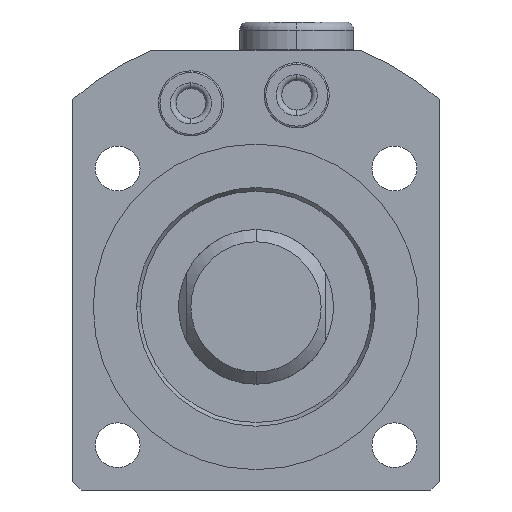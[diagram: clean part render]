
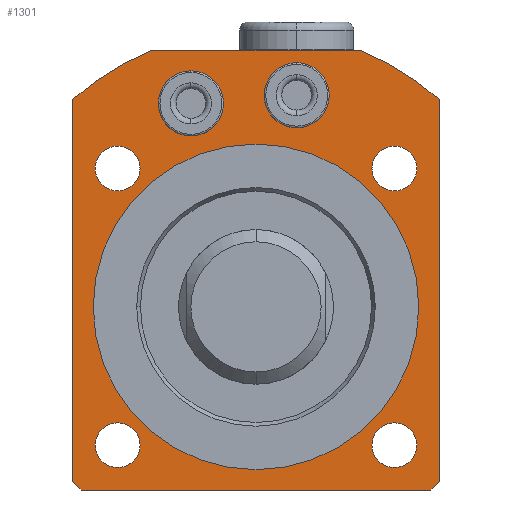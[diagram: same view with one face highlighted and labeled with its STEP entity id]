
A CAD part, front view. The second image highlights one B-rep face of the part: STEP entity #1301.
In plain terms, the highlighted planar face has unit normal (0, -1, 0).
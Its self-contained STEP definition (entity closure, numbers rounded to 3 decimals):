
#993=FACE_BOUND('',#1774,.T.);
#994=FACE_BOUND('',#1775,.T.);
#995=FACE_BOUND('',#1776,.T.);
#996=FACE_BOUND('',#1777,.T.);
#997=FACE_BOUND('',#1778,.T.);
#998=FACE_BOUND('',#1779,.T.);
#999=FACE_BOUND('',#1780,.T.);
#1000=FACE_BOUND('',#1781,.T.);
#1072=PLANE('',#4391);
#1301=ADVANCED_FACE('',(#993,#994,#995,#996,#997,#998,#999,#1000),#1072,
 .T.);
#1774=EDGE_LOOP('',(#2775,#2776));
#1775=EDGE_LOOP('',(#2777,#2778));
#1776=EDGE_LOOP('',(#2779,#2780));
#1777=EDGE_LOOP('',(#2781,#2782));
#1778=EDGE_LOOP('',(#2783,#2784));
#1779=EDGE_LOOP('',(#2785,#2786));
#1780=EDGE_LOOP('',(#2787,#2788));
#1781=EDGE_LOOP('',(#2789,#2790,#2791,#2792,#2793,#2794,#2795,#2796));
#2034=LINE('',#6532,#2216);
#2035=LINE('',#6536,#2217);
#2036=LINE('',#6538,#2218);
#2037=LINE('',#6540,#2219);
#2038=LINE('',#6542,#2220);
#2039=LINE('',#6544,#2221);
#2216=VECTOR('',#5256,1.);
#2217=VECTOR('',#5259,1.);
#2218=VECTOR('',#5260,1.);
#2219=VECTOR('',#5261,1.);
#2220=VECTOR('',#5262,1.);
#2221=VECTOR('',#5263,1.);
#2775=ORIENTED_EDGE('',*,*,#3758,.F.);
#2776=ORIENTED_EDGE('',*,*,#3616,.F.);
#2777=ORIENTED_EDGE('',*,*,#3759,.F.);
#2778=ORIENTED_EDGE('',*,*,#3620,.F.);
#2779=ORIENTED_EDGE('',*,*,#3640,.F.);
#2780=ORIENTED_EDGE('',*,*,#3760,.F.);
#2781=ORIENTED_EDGE('',*,*,#3648,.F.);
#2782=ORIENTED_EDGE('',*,*,#3761,.F.);
#2783=ORIENTED_EDGE('',*,*,#3656,.F.);
#2784=ORIENTED_EDGE('',*,*,#3762,.F.);
#2785=ORIENTED_EDGE('',*,*,#3664,.F.);
#2786=ORIENTED_EDGE('',*,*,#3763,.F.);
#2787=ORIENTED_EDGE('',*,*,#3692,.T.);
#2788=ORIENTED_EDGE('',*,*,#3764,.T.);
#2789=ORIENTED_EDGE('',*,*,#3765,.F.);
#2790=ORIENTED_EDGE('',*,*,#3766,.T.);
#2791=ORIENTED_EDGE('',*,*,#3767,.F.);
#2792=ORIENTED_EDGE('',*,*,#3768,.T.);
#2793=ORIENTED_EDGE('',*,*,#3769,.T.);
#2794=ORIENTED_EDGE('',*,*,#3770,.T.);
#2795=ORIENTED_EDGE('',*,*,#3771,.T.);
#2796=ORIENTED_EDGE('',*,*,#3772,.T.);
#3267=VERTEX_POINT('',#6035);
#3268=VERTEX_POINT('',#6037);
#3271=VERTEX_POINT('',#6044);
#3272=VERTEX_POINT('',#6046);
#3290=VERTEX_POINT('',#6111);
#3291=VERTEX_POINT('',#6112);
#3298=VERTEX_POINT('',#6138);
#3299=VERTEX_POINT('',#6139);
#3306=VERTEX_POINT('',#6165);
#3307=VERTEX_POINT('',#6166);
#3314=VERTEX_POINT('',#6192);
#3315=VERTEX_POINT('',#6193);
#3338=VERTEX_POINT('',#6310);
#3339=VERTEX_POINT('',#6312);
#3387=VERTEX_POINT('',#6530);
#3388=VERTEX_POINT('',#6531);
#3389=VERTEX_POINT('',#6533);
#3390=VERTEX_POINT('',#6535);
#3391=VERTEX_POINT('',#6537);
#3392=VERTEX_POINT('',#6539);
#3393=VERTEX_POINT('',#6541);
#3394=VERTEX_POINT('',#6543);
#3616=EDGE_CURVE('',#3267,#3268,#3976,.T.);
#3620=EDGE_CURVE('',#3271,#3272,#3978,.T.);
#3640=EDGE_CURVE('',#3290,#3291,#3986,.T.);
#3648=EDGE_CURVE('',#3298,#3299,#3989,.T.);
#3656=EDGE_CURVE('',#3306,#3307,#3992,.T.);
#3664=EDGE_CURVE('',#3314,#3315,#3995,.T.);
#3692=EDGE_CURVE('',#3339,#3338,#4004,.T.);
#3758=EDGE_CURVE('',#3268,#3267,#4031,.T.);
#3759=EDGE_CURVE('',#3272,#3271,#4032,.T.);
#3760=EDGE_CURVE('',#3291,#3290,#4033,.T.);
#3761=EDGE_CURVE('',#3299,#3298,#4034,.T.);
#3762=EDGE_CURVE('',#3307,#3306,#4035,.T.);
#3763=EDGE_CURVE('',#3315,#3314,#4036,.T.);
#3764=EDGE_CURVE('',#3338,#3339,#4037,.T.);
#3765=EDGE_CURVE('',#3387,#3388,#4038,.T.);
#3766=EDGE_CURVE('',#3387,#3389,#2034,.T.);
#3767=EDGE_CURVE('',#3390,#3389,#4039,.T.);
#3768=EDGE_CURVE('',#3390,#3391,#2035,.T.);
#3769=EDGE_CURVE('',#3391,#3392,#2036,.T.);
#3770=EDGE_CURVE('',#3392,#3393,#2037,.T.);
#3771=EDGE_CURVE('',#3393,#3394,#2038,.T.);
#3772=EDGE_CURVE('',#3394,#3388,#2039,.T.);
#3976=CIRCLE('',#4288,4.);
#3978=CIRCLE('',#4291,4.);
#3986=CIRCLE('',#4305,2.75);
#3989=CIRCLE('',#4310,2.75);
#3992=CIRCLE('',#4315,2.75);
#3995=CIRCLE('',#4320,2.75);
#4004=CIRCLE('',#4336,20.);
#4031=CIRCLE('',#4382,4.);
#4032=CIRCLE('',#4383,4.);
#4033=CIRCLE('',#4384,2.75);
#4034=CIRCLE('',#4385,2.75);
#4035=CIRCLE('',#4386,2.75);
#4036=CIRCLE('',#4387,2.75);
#4037=CIRCLE('',#4388,20.);
#4038=CIRCLE('',#4389,34.);
#4039=CIRCLE('',#4390,34.);
#4288=AXIS2_PLACEMENT_3D('',#6036,#4987,#4988);
#4291=AXIS2_PLACEMENT_3D('',#6045,#4995,#4996);
#4305=AXIS2_PLACEMENT_3D('',#6110,#5032,#5033);
#4310=AXIS2_PLACEMENT_3D('',#6137,#5046,#5047);
#4315=AXIS2_PLACEMENT_3D('',#6164,#5060,#5061);
#4320=AXIS2_PLACEMENT_3D('',#6191,#5074,#5075);
#4336=AXIS2_PLACEMENT_3D('',#6311,#5121,#5122);
#4382=AXIS2_PLACEMENT_3D('',#6522,#5240,#5241);
#4383=AXIS2_PLACEMENT_3D('',#6523,#5242,#5243);
#4384=AXIS2_PLACEMENT_3D('',#6524,#5244,#5245);
#4385=AXIS2_PLACEMENT_3D('',#6525,#5246,#5247);
#4386=AXIS2_PLACEMENT_3D('',#6526,#5248,#5249);
#4387=AXIS2_PLACEMENT_3D('',#6527,#5250,#5251);
#4388=AXIS2_PLACEMENT_3D('',#6528,#5252,#5253);
#4389=AXIS2_PLACEMENT_3D('',#6529,#5254,#5255);
#4390=AXIS2_PLACEMENT_3D('',#6534,#5257,#5258);
#4391=AXIS2_PLACEMENT_3D('',#6545,#5264,#5265);
#4987=DIRECTION('',(0.,-1.,0.));
#4988=DIRECTION('',(1.,0.,0.));
#4995=DIRECTION('',(0.,-1.,0.));
#4996=DIRECTION('',(1.,0.,0.));
#5032=DIRECTION('',(0.,-1.,0.));
#5033=DIRECTION('',(0.,0.,1.));
#5046=DIRECTION('',(0.,-1.,0.));
#5047=DIRECTION('',(-1.,0.,0.));
#5060=DIRECTION('',(0.,-1.,0.));
#5061=DIRECTION('',(0.,0.,-1.));
#5074=DIRECTION('',(0.,-1.,0.));
#5075=DIRECTION('',(1.,0.,0.));
#5121=DIRECTION('',(0.,1.,0.));
#5122=DIRECTION('',(-1.,0.,0.));
#5240=DIRECTION('',(0.,-1.,0.));
#5241=DIRECTION('',(1.,0.,0.));
#5242=DIRECTION('',(0.,-1.,0.));
#5243=DIRECTION('',(1.,0.,0.));
#5244=DIRECTION('',(0.,-1.,0.));
#5245=DIRECTION('',(0.,0.,1.));
#5246=DIRECTION('',(0.,-1.,0.));
#5247=DIRECTION('',(-1.,0.,0.));
#5248=DIRECTION('',(0.,-1.,0.));
#5249=DIRECTION('',(0.,0.,-1.));
#5250=DIRECTION('',(0.,-1.,0.));
#5251=DIRECTION('',(1.,0.,0.));
#5252=DIRECTION('',(0.,1.,0.));
#5253=DIRECTION('',(-1.,0.,0.));
#5254=DIRECTION('',(0.,1.,0.));
#5255=DIRECTION('',(-1.,0.,0.));
#5256=DIRECTION('',(-1.,0.,0.));
#5257=DIRECTION('',(0.,1.,0.));
#5258=DIRECTION('',(-1.,0.,0.));
#5259=DIRECTION('',(0.,0.,-1.));
#5260=DIRECTION('',(0.707,0.,-0.707));
#5261=DIRECTION('',(1.,0.,0.));
#5262=DIRECTION('',(0.707,0.,0.707));
#5263=DIRECTION('',(0.,0.,1.));
#5264=DIRECTION('',(0.,-1.,0.));
#5265=DIRECTION('',(-1.,0.,0.));
#6035=CARTESIAN_POINT('',(1.,-25.,26.));
#6036=CARTESIAN_POINT('',(5.,-25.,26.));
#6037=CARTESIAN_POINT('',(9.,-25.,26.));
#6044=CARTESIAN_POINT('',(-12.,-25.,25.));
#6045=CARTESIAN_POINT('',(-8.,-25.,25.));
#6046=CARTESIAN_POINT('',(-4.,-25.,25.));
#6110=CARTESIAN_POINT('',(17.,-25.,-17.));
#6111=CARTESIAN_POINT('',(14.25,-25.,-17.));
#6112=CARTESIAN_POINT('',(19.75,-25.,-17.));
#6137=CARTESIAN_POINT('',(17.,-25.,17.));
#6138=CARTESIAN_POINT('',(17.,-25.,14.25));
#6139=CARTESIAN_POINT('',(17.,-25.,19.75));
#6164=CARTESIAN_POINT('',(-17.,-25.,17.));
#6165=CARTESIAN_POINT('',(-14.25,-25.,17.));
#6166=CARTESIAN_POINT('',(-19.75,-25.,17.));
#6191=CARTESIAN_POINT('',(-17.,-25.,-17.));
#6192=CARTESIAN_POINT('',(-17.,-25.,-14.25));
#6193=CARTESIAN_POINT('',(-17.,-25.,-19.75));
#6310=CARTESIAN_POINT('',(20.,-25.,0.));
#6311=CARTESIAN_POINT('',(0.,-25.,0.));
#6312=CARTESIAN_POINT('',(-20.,-25.,0.));
#6522=CARTESIAN_POINT('',(5.,-25.,26.));
#6523=CARTESIAN_POINT('',(-8.,-25.,25.));
#6524=CARTESIAN_POINT('',(17.,-25.,-17.));
#6525=CARTESIAN_POINT('',(17.,-25.,17.));
#6526=CARTESIAN_POINT('',(-17.,-25.,17.));
#6527=CARTESIAN_POINT('',(-17.,-25.,-17.));
#6528=CARTESIAN_POINT('',(0.,-25.,0.));
#6529=CARTESIAN_POINT('',(0.,-25.,0.));
#6530=CARTESIAN_POINT('',(12.796,-25.,31.5));
#6531=CARTESIAN_POINT('',(22.5,-25.,25.49));
#6532=CARTESIAN_POINT('',(-20.,-25.,31.5));
#6533=CARTESIAN_POINT('',(-12.796,-25.,31.5));
#6534=CARTESIAN_POINT('',(0.,-25.,0.));
#6535=CARTESIAN_POINT('',(-22.5,-25.,25.49));
#6536=CARTESIAN_POINT('',(-22.5,-25.,0.));
#6537=CARTESIAN_POINT('',(-22.5,-25.,-21.5));
#6538=CARTESIAN_POINT('',(-32.,-25.,-12.));
#6539=CARTESIAN_POINT('',(-21.5,-25.,-22.5));
#6540=CARTESIAN_POINT('',(-20.,-25.,-22.5));
#6541=CARTESIAN_POINT('',(21.5,-25.,-22.5));
#6542=CARTESIAN_POINT('',(12.,-25.,-32.));
#6543=CARTESIAN_POINT('',(22.5,-25.,-21.5));
#6544=CARTESIAN_POINT('',(22.5,-25.,0.));
#6545=CARTESIAN_POINT('',(-20.,-25.,0.));
